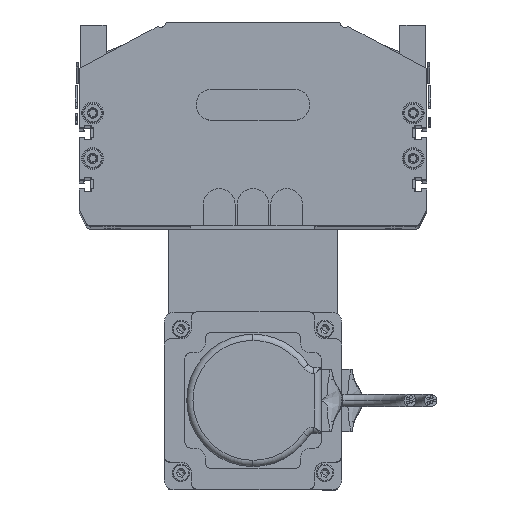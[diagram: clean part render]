
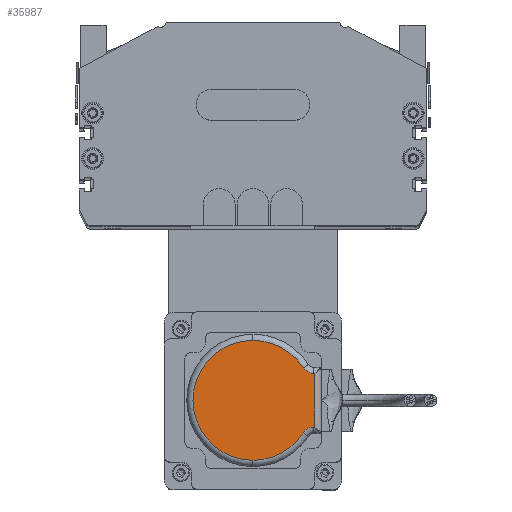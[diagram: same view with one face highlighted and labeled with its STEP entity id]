
A CAD part, top view. The second image highlights one B-rep face of the part: STEP entity #35987.
In plain terms, the highlighted planar face has unit normal (0, 0, 1).
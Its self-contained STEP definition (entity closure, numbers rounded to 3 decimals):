
#26540 = CARTESIAN_POINT ( 'NONE',  ( 17.257, 57.355, 26. ) ) ;
#26557 = CARTESIAN_POINT ( 'NONE',  ( 4., 33., 26. ) ) ;
#26565 = AXIS2_PLACEMENT_3D ( 'NONE', #26746, #26756, #26722 ) ;
#26586 = CIRCLE ( 'NONE', #26673, 29. ) ;
#26618 = CARTESIAN_POINT ( 'NONE',  ( 20., 62.394, 26. ) ) ;
#26663 = DIRECTION ( 'NONE',  ( 1., 0., 0. ) ) ;
#26664 = DIRECTION ( 'NONE',  ( 0., 0., 1. ) ) ;
#26673 = AXIS2_PLACEMENT_3D ( 'NONE', #26682, #26664, #26663 ) ;
#26682 = CARTESIAN_POINT ( 'NONE',  ( 33., 33., 26. ) ) ;
#26722 = DIRECTION ( 'NONE',  ( 1., 0., 0. ) ) ;
#26746 = CARTESIAN_POINT ( 'NONE',  ( 33., 33., 26. ) ) ;
#26756 = DIRECTION ( 'NONE',  ( 0., 0., 1. ) ) ;
#26766 = CIRCLE ( 'NONE', #26565, 29. ) ;
#26824 = CARTESIAN_POINT ( 'NONE',  ( 62., 33., 26. ) ) ;
#26847 = VECTOR ( 'NONE', #26993, 1000. ) ;
#26849 = CARTESIAN_POINT ( 'NONE',  ( 46., 33., 26. ) ) ;
#26850 = LINE ( 'NONE', #26849, #26847 ) ;
#26860 = DIRECTION ( 'NONE',  ( 1., 0., 0. ) ) ;
#26862 = DIRECTION ( 'NONE',  ( 0., 0., 1. ) ) ;
#26863 = CARTESIAN_POINT ( 'NONE',  ( 52., 62.394, 26. ) ) ;
#26865 = AXIS2_PLACEMENT_3D ( 'NONE', #26863, #26862, #26860 ) ;
#26867 = CIRCLE ( 'NONE', #26865, 6. ) ;
#26875 = DIRECTION ( 'NONE',  ( 1., 0., 0. ) ) ;
#26877 = DIRECTION ( 'NONE',  ( 0., 0., 1. ) ) ;
#26879 = AXIS2_PLACEMENT_3D ( 'NONE', #26901, #26877, #26875 ) ;
#26882 = CARTESIAN_POINT ( 'NONE',  ( 46., 62.394, 26. ) ) ;
#26894 = CIRCLE ( 'NONE', #26879, 29. ) ;
#26901 = CARTESIAN_POINT ( 'NONE',  ( 33., 33., 26. ) ) ;
#26924 = DIRECTION ( 'NONE',  ( 1., 0., 0. ) ) ;
#26926 = DIRECTION ( 'NONE',  ( 0., 0., 1. ) ) ;
#26927 = CARTESIAN_POINT ( 'NONE',  ( 14., 62.394, 26. ) ) ;
#26929 = AXIS2_PLACEMENT_3D ( 'NONE', #26927, #26926, #26924 ) ;
#26930 = CIRCLE ( 'NONE', #26929, 6. ) ;
#26944 = CARTESIAN_POINT ( 'NONE',  ( 20., 63., 26. ) ) ;
#26948 = FACE_OUTER_BOUND ( 'NONE', #35862, .T. ) ;
#26962 = AXIS2_PLACEMENT_3D ( 'NONE', #27055, #27053, #27052 ) ;
#26965 = PLANE ( 'NONE',  #26962 ) ;
#26979 = DIRECTION ( 'NONE',  ( -1., 0., 0. ) ) ;
#26980 = VECTOR ( 'NONE', #26979, 1000. ) ;
#26981 = CARTESIAN_POINT ( 'NONE',  ( 17.5, 63., 26. ) ) ;
#26983 = LINE ( 'NONE', #26981, #26980 ) ;
#26984 = CARTESIAN_POINT ( 'NONE',  ( 46., 63., 26. ) ) ;
#26993 = DIRECTION ( 'NONE',  ( 0., 1., 0. ) ) ;
#27052 = DIRECTION ( 'NONE',  ( 1., 0., 0. ) ) ;
#27053 = DIRECTION ( 'NONE',  ( 0., 0., 1. ) ) ;
#27055 = CARTESIAN_POINT ( 'NONE',  ( 33., 33., 26. ) ) ;
#27061 = CARTESIAN_POINT ( 'NONE',  ( 48.743, 57.355, 26. ) ) ;
#27223 = DIRECTION ( 'NONE',  ( 0., -1., 0. ) ) ;
#27225 = VECTOR ( 'NONE', #27223, 1000. ) ;
#27226 = CARTESIAN_POINT ( 'NONE',  ( 20., 33., 26. ) ) ;
#27228 = LINE ( 'NONE', #27226, #27225 ) ;
#35783 = VERTEX_POINT ( 'NONE', #26540 ) ;
#35844 = VERTEX_POINT ( 'NONE', #26557 ) ;
#35862 = EDGE_LOOP ( 'NONE', ( #35947, #35950, #35949, #35979, #35865, #35952, #35948, #36059 ) ) ;
#35865 = ORIENTED_EDGE ( 'NONE', *, *, #35954, .F. ) ;
#35872 = VERTEX_POINT ( 'NONE', #26618 ) ;
#35884 = EDGE_CURVE ( 'NONE', #35844, #35917, #26586, .T. ) ;
#35898 = EDGE_CURVE ( 'NONE', #35783, #35844, #26766, .T. ) ;
#35917 = VERTEX_POINT ( 'NONE', #26824 ) ;
#35947 = ORIENTED_EDGE ( 'NONE', *, *, #35986, .F. ) ;
#35948 = ORIENTED_EDGE ( 'NONE', *, *, #35962, .T. ) ;
#35949 = ORIENTED_EDGE ( 'NONE', *, *, #35884, .T. ) ;
#35950 = ORIENTED_EDGE ( 'NONE', *, *, #35898, .T. ) ;
#35951 = EDGE_CURVE ( 'NONE', #35917, #35988, #26894, .T. ) ;
#35952 = ORIENTED_EDGE ( 'NONE', *, *, #35958, .T. ) ;
#35954 = EDGE_CURVE ( 'NONE', #35955, #35988, #26867, .T. ) ;
#35955 = VERTEX_POINT ( 'NONE', #26882 ) ;
#35958 = EDGE_CURVE ( 'NONE', #35955, #35963, #26850, .T. ) ;
#35962 = EDGE_CURVE ( 'NONE', #35963, #35981, #26983, .T. ) ;
#35963 = VERTEX_POINT ( 'NONE', #26984 ) ;
#35979 = ORIENTED_EDGE ( 'NONE', *, *, #35951, .T. ) ;
#35981 = VERTEX_POINT ( 'NONE', #26944 ) ;
#35986 = EDGE_CURVE ( 'NONE', #35783, #35872, #26930, .T. ) ;
#35987 = ADVANCED_FACE ( 'NONE', ( #26948 ), #26965, .T. ) ;
#35988 = VERTEX_POINT ( 'NONE', #27061 ) ;
#36055 = EDGE_CURVE ( 'NONE', #35981, #35872, #27228, .T. ) ;
#36059 = ORIENTED_EDGE ( 'NONE', *, *, #36055, .T. ) ;
